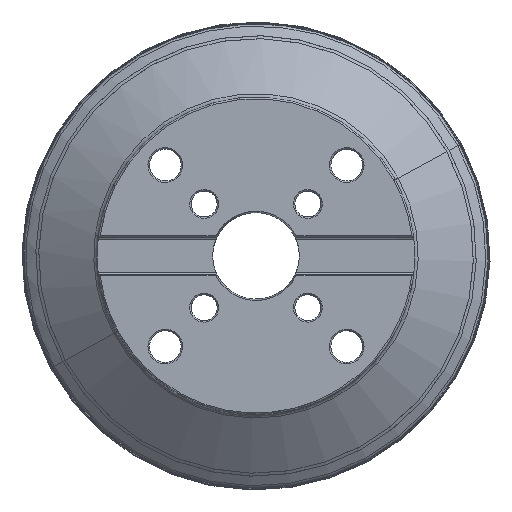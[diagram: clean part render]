
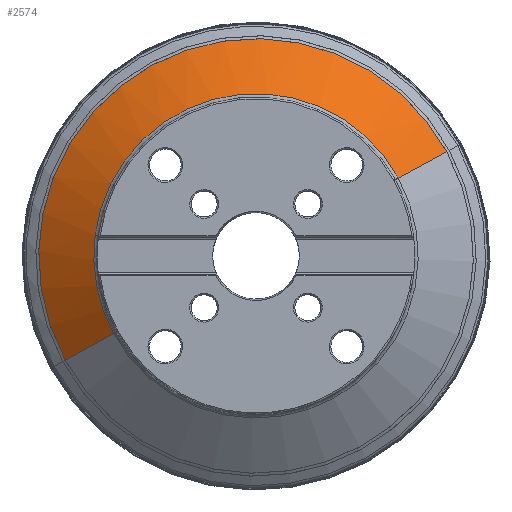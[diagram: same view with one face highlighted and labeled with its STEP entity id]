
A CAD part, top view. The second image highlights one B-rep face of the part: STEP entity #2574.
In plain terms, the highlighted conical face has half-angle 52.934 degrees and reference radius 110 mm.
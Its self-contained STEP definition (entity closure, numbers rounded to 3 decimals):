
#2457=AXIS2_PLACEMENT_3D('Circle Axis2P3D',#2455,#2456,$) ;
#2553=AXIS2_PLACEMENT_3D('Cone Axis2P3D',#2550,#2551,#2552) ;
#2557=AXIS2_PLACEMENT_3D('Circle Axis2P3D',#2555,#2556,$) ;
#2564=AXIS2_PLACEMENT_3D('Circle Axis2P3D',#2562,#2563,$) ;
#2395=CARTESIAN_POINT('Vertex',(132.107,72.17,-51.619)) ;
#2402=CARTESIAN_POINT('Vertex',(-132.107,-72.17,-51.619)) ;
#2455=CARTESIAN_POINT('Axis2P3D Location',(0.,0.,-51.619)) ;
#2491=CARTESIAN_POINT('Line Origine',(350175.975,191302.007,-301350.021)) ;
#2495=CARTESIAN_POINT('Vertex',(98.626,53.88,-22.8)) ;
#2502=CARTESIAN_POINT('Vertex',(-98.626,-53.88,-22.8)) ;
#2505=CARTESIAN_POINT('Line Origine',(-350175.975,-191302.007,-301350.021)) ;
#2550=CARTESIAN_POINT('Axis2P3D Location',(0.,0.,-21.)) ;
#2555=CARTESIAN_POINT('Axis2P3D Location',(0.,0.,-22.8)) ;
#2559=CARTESIAN_POINT('Vertex',(-111.46,14.381,-22.8)) ;
#2562=CARTESIAN_POINT('Axis2P3D Location',(0.,0.,-22.8)) ;
#2456=DIRECTION('Axis2P3D Direction',(0.,0.,-1.)) ;
#2492=DIRECTION('Vector Direction',(0.7,0.383,-0.603)) ;
#2506=DIRECTION('Vector Direction',(-0.7,-0.383,-0.603)) ;
#2551=DIRECTION('Axis2P3D Direction',(-0.,-0.,-1.)) ;
#2552=DIRECTION('Axis2P3D XDirection',(-0.878,-0.479,0.)) ;
#2556=DIRECTION('Axis2P3D Direction',(-0.,0.,-1.)) ;
#2563=DIRECTION('Axis2P3D Direction',(-0.,0.,-1.)) ;
#2493=VECTOR('Line Direction',#2492,1.) ;
#2507=VECTOR('Line Direction',#2506,1.) ;
#2568=ORIENTED_EDGE('',*,*,#2509,.T.) ;
#2569=ORIENTED_EDGE('',*,*,#2561,.T.) ;
#2570=ORIENTED_EDGE('',*,*,#2566,.T.) ;
#2571=ORIENTED_EDGE('',*,*,#2497,.F.) ;
#2572=ORIENTED_EDGE('',*,*,#2459,.F.) ;
#2574=ADVANCED_FACE('NOCUT',(#2573),#2554,.T.) ;
#2458=CIRCLE('generated circle',#2457,150.535) ;
#2558=CIRCLE('generated circle',#2557,112.384) ;
#2565=CIRCLE('generated circle',#2564,112.384) ;
#2554=CONICAL_SURFACE('Cone',#2553,110.,0.924) ;
#2459=EDGE_CURVE('',#2403,#2396,#2458,.T.) ;
#2497=EDGE_CURVE('',#2396,#2496,#2494,.F.) ;
#2509=EDGE_CURVE('',#2403,#2503,#2508,.F.) ;
#2561=EDGE_CURVE('',#2503,#2560,#2558,.T.) ;
#2566=EDGE_CURVE('',#2560,#2496,#2565,.T.) ;
#2567=EDGE_LOOP('',(#2568,#2569,#2570,#2571,#2572)) ;
#2573=FACE_OUTER_BOUND('',#2567,.T.) ;
#2494=LINE('Line',#2491,#2493) ;
#2508=LINE('Line',#2505,#2507) ;
#2396=VERTEX_POINT('',#2395) ;
#2403=VERTEX_POINT('',#2402) ;
#2496=VERTEX_POINT('',#2495) ;
#2503=VERTEX_POINT('',#2502) ;
#2560=VERTEX_POINT('',#2559) ;
